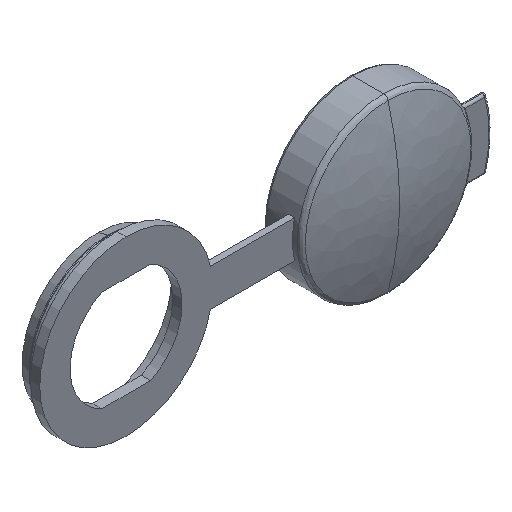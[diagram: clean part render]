
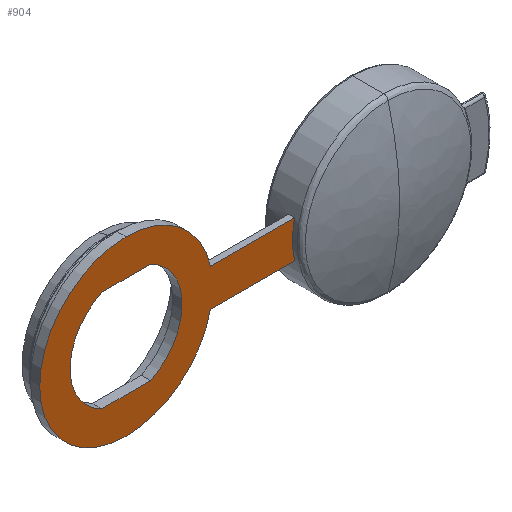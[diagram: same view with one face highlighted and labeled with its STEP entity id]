
A CAD part, isometric view. The second image highlights one B-rep face of the part: STEP entity #904.
In plain terms, the highlighted planar face has unit normal (0, -1, 0).
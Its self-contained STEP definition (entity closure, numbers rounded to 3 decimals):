
#7 = CARTESIAN_POINT ( 'NONE',  ( 0., 0., 0. ) ) ;
#19 = AXIS2_PLACEMENT_3D ( 'NONE', #1711, #687, #1881 ) ;
#41 = EDGE_CURVE ( 'NONE', #1178, #1222, #2081, .T. ) ;
#86 = ORIENTED_EDGE ( 'NONE', *, *, #1568, .F. ) ;
#88 = CARTESIAN_POINT ( 'NONE',  ( 54.125, 0., 0. ) ) ;
#94 = CIRCLE ( 'NONE', #535, 18.5 ) ;
#98 = CARTESIAN_POINT ( 'NONE',  ( 5.231, 0., -10.8 ) ) ;
#103 = DIRECTION ( 'NONE',  ( 0., 0., 1. ) ) ;
#128 = AXIS2_PLACEMENT_3D ( 'NONE', #1823, #803, #1987 ) ;
#172 = DIRECTION ( 'NONE',  ( 0., 0., -1. ) ) ;
#180 = CARTESIAN_POINT ( 'NONE',  ( 18.062, 0., 4. ) ) ;
#245 = DIRECTION ( 'NONE',  ( 0., 0., -1. ) ) ;
#256 = EDGE_CURVE ( 'NONE', #1977, #2118, #978, .T. ) ;
#258 = ORIENTED_EDGE ( 'NONE', *, *, #1845, .F. ) ;
#332 = CARTESIAN_POINT ( 'NONE',  ( 0., 0., 18.5 ) ) ;
#343 = CARTESIAN_POINT ( 'NONE',  ( 0., 0., -18.5 ) ) ;
#409 = ORIENTED_EDGE ( 'NONE', *, *, #41, .F. ) ;
#429 = LINE ( 'NONE', #1678, #1729 ) ;
#431 = DIRECTION ( 'NONE',  ( 1., 0., 0. ) ) ;
#481 = FACE_OUTER_BOUND ( 'NONE', #1049, .T. ) ;
#500 = DIRECTION ( 'NONE',  ( 0., -1., 0. ) ) ;
#535 = AXIS2_PLACEMENT_3D ( 'NONE', #88, #1246, #245 ) ;
#659 = CARTESIAN_POINT ( 'NONE',  ( 36.062, 0., -4. ) ) ;
#687 = DIRECTION ( 'NONE',  ( 0., 1., 0. ) ) ;
#688 = CIRCLE ( 'NONE', #128, 18.5 ) ;
#723 = CARTESIAN_POINT ( 'NONE',  ( 0., 0., -4. ) ) ;
#752 = CARTESIAN_POINT ( 'NONE',  ( 0., 0., -10.8 ) ) ;
#759 = CARTESIAN_POINT ( 'NONE',  ( 0., 0., 0. ) ) ;
#801 = DIRECTION ( 'NONE',  ( 0., -1., 0. ) ) ;
#803 = DIRECTION ( 'NONE',  ( 0., 1., 0. ) ) ;
#814 = CIRCLE ( 'NONE', #1894, 12. ) ;
#818 = LINE ( 'NONE', #723, #1670 ) ;
#823 = EDGE_CURVE ( 'NONE', #2092, #869, #1476, .T. ) ;
#827 = CARTESIAN_POINT ( 'NONE',  ( 0., 0., 10.8 ) ) ;
#837 = ORIENTED_EDGE ( 'NONE', *, *, #823, .F. ) ;
#848 = ORIENTED_EDGE ( 'NONE', *, *, #2083, .F. ) ;
#869 = VERTEX_POINT ( 'NONE', #180 ) ;
#890 = ORIENTED_EDGE ( 'NONE', *, *, #1986, .F. ) ;
#904 = ADVANCED_FACE ( 'NONE', ( #481, #1833 ), #2098, .F. ) ;
#926 = EDGE_CURVE ( 'NONE', #1222, #2016, #1375, .T. ) ;
#962 = EDGE_CURVE ( 'NONE', #869, #1026, #429, .T. ) ;
#978 = CIRCLE ( 'NONE', #1844, 18.5 ) ;
#990 = DIRECTION ( 'NONE',  ( -1., 0., 0. ) ) ;
#1026 = VERTEX_POINT ( 'NONE', #1534 ) ;
#1049 = EDGE_LOOP ( 'NONE', ( #890, #1923, #837, #258, #1091, #86 ) ) ;
#1091 = ORIENTED_EDGE ( 'NONE', *, *, #256, .F. ) ;
#1095 = DIRECTION ( 'NONE',  ( 0., 1., 0. ) ) ;
#1166 = DIRECTION ( 'NONE',  ( 0., 1., 0. ) ) ;
#1178 = VERTEX_POINT ( 'NONE', #1969 ) ;
#1222 = VERTEX_POINT ( 'NONE', #1800 ) ;
#1246 = DIRECTION ( 'NONE',  ( 0., -1., 0. ) ) ;
#1367 = VERTEX_POINT ( 'NONE', #659 ) ;
#1375 = LINE ( 'NONE', #752, #1781 ) ;
#1476 = CIRCLE ( 'NONE', #19, 18.5 ) ;
#1506 = CARTESIAN_POINT ( 'NONE',  ( 0., 0., 0. ) ) ;
#1534 = CARTESIAN_POINT ( 'NONE',  ( 36.062, 0., 4. ) ) ;
#1568 = EDGE_CURVE ( 'NONE', #1367, #1977, #818, .T. ) ;
#1579 = CARTESIAN_POINT ( 'NONE',  ( 5.231, 0., 10.8 ) ) ;
#1629 = ORIENTED_EDGE ( 'NONE', *, *, #926, .F. ) ;
#1670 = VECTOR ( 'NONE', #1744, 1000. ) ;
#1678 = CARTESIAN_POINT ( 'NONE',  ( 0., 0., 4. ) ) ;
#1680 = DIRECTION ( 'NONE',  ( 0., 0., -1. ) ) ;
#1701 = AXIS2_PLACEMENT_3D ( 'NONE', #759, #1095, #103 ) ;
#1711 = CARTESIAN_POINT ( 'NONE',  ( 0., 0., 0. ) ) ;
#1724 = AXIS2_PLACEMENT_3D ( 'NONE', #1822, #801, #1984 ) ;
#1725 = LINE ( 'NONE', #827, #2096 ) ;
#1729 = VECTOR ( 'NONE', #1851, 1000. ) ;
#1738 = ORIENTED_EDGE ( 'NONE', *, *, #2082, .F. ) ;
#1742 = VERTEX_POINT ( 'NONE', #1579 ) ;
#1744 = DIRECTION ( 'NONE',  ( -1., 0., 0. ) ) ;
#1757 = CARTESIAN_POINT ( 'NONE',  ( 18.062, 0., -4. ) ) ;
#1781 = VECTOR ( 'NONE', #431, 1000. ) ;
#1800 = CARTESIAN_POINT ( 'NONE',  ( -5.231, 0., -10.8 ) ) ;
#1822 = CARTESIAN_POINT ( 'NONE',  ( 0., 0., 0. ) ) ;
#1823 = CARTESIAN_POINT ( 'NONE',  ( 0., 0., 0. ) ) ;
#1833 = FACE_BOUND ( 'NONE', #2000, .T. ) ;
#1844 = AXIS2_PLACEMENT_3D ( 'NONE', #7, #1166, #172 ) ;
#1845 = EDGE_CURVE ( 'NONE', #2118, #2092, #688, .T. ) ;
#1851 = DIRECTION ( 'NONE',  ( 1., 0., 0. ) ) ;
#1881 = DIRECTION ( 'NONE',  ( 0., 0., -1. ) ) ;
#1894 = AXIS2_PLACEMENT_3D ( 'NONE', #1506, #500, #1680 ) ;
#1923 = ORIENTED_EDGE ( 'NONE', *, *, #962, .F. ) ;
#1969 = CARTESIAN_POINT ( 'NONE',  ( -5.231, 0., 10.8 ) ) ;
#1977 = VERTEX_POINT ( 'NONE', #1757 ) ;
#1984 = DIRECTION ( 'NONE',  ( 0., 0., -1. ) ) ;
#1986 = EDGE_CURVE ( 'NONE', #1026, #1367, #94, .T. ) ;
#1987 = DIRECTION ( 'NONE',  ( 0., 0., -1. ) ) ;
#2000 = EDGE_LOOP ( 'NONE', ( #409, #848, #1738, #1629 ) ) ;
#2016 = VERTEX_POINT ( 'NONE', #98 ) ;
#2081 = CIRCLE ( 'NONE', #1724, 12. ) ;
#2082 = EDGE_CURVE ( 'NONE', #2016, #1742, #814, .T. ) ;
#2083 = EDGE_CURVE ( 'NONE', #1742, #1178, #1725, .T. ) ;
#2092 = VERTEX_POINT ( 'NONE', #332 ) ;
#2096 = VECTOR ( 'NONE', #990, 1000. ) ;
#2098 = PLANE ( 'NONE',  #1701 ) ;
#2118 = VERTEX_POINT ( 'NONE', #343 ) ;
